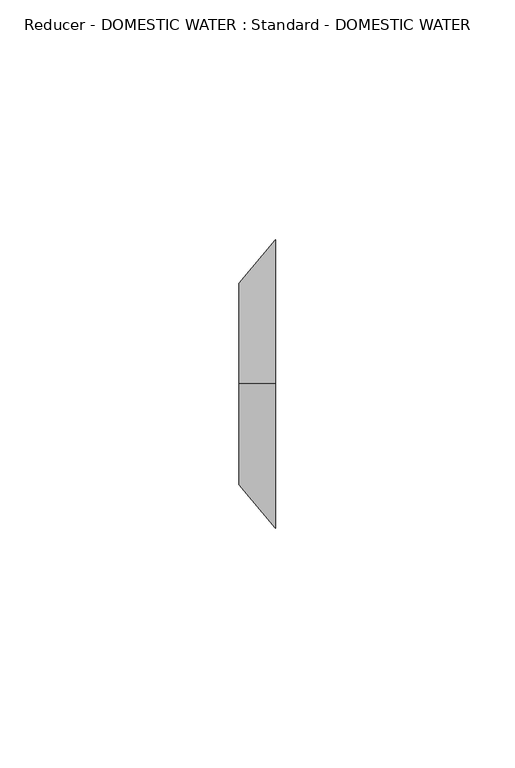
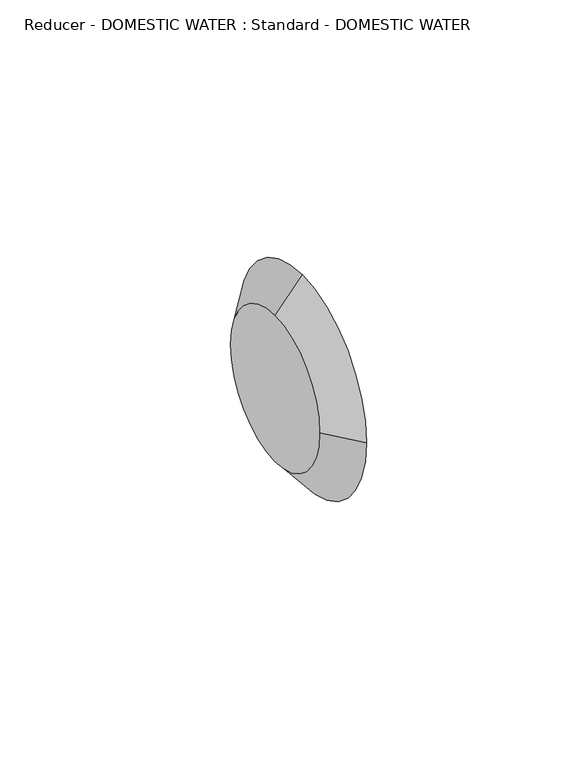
"""IFC4 building model written with IfcOpenShell, lengths in millimetres: pipe fitting geometry, Reducer - DOMESTIC WATER : Standard - DOMESTIC WATER."""

from ifc_helpers import new_model, si_unit, frame, origin, place, context, project, spatial, polyline, circle_curve, source, transform, mapped, element, save
from ifc_brep_helpers import plane_surface, revolved_surface, advanced_brep


def reducer_domestic_water_standard_domestic_water_1e759f6c(model_context):
    return source(origin(), model_context, "Body", "AdvancedBrep", [
        advanced_brep(
        [(7.540625, 0.0, 30.1625), (7.540625, -30.1625, 0.0), (7.540625, 0.0, -30.1625), (7.540625, 30.1625, 0.0), (0.0, 0.0, 21.082), (0.0, 21.082, 0.0), (0.0, 0.0, -21.082), (0.0, -21.082, 0.0)],
        [
            (0, 1, circle_curve(frame((7.540625, 0.0, 0.0), z_axis=(1.0, 0.0, 0.0), x_axis=(0.0, 0.0, 1.0)), 30.1625)),
            (1, 2, circle_curve(frame((7.540625, 0.0, 0.0), z_axis=(1.0, 0.0, 0.0), x_axis=(0.0, -1.0, 0.0)), 30.1625)),
            (2, 3, circle_curve(frame((7.540625, 0.0, 0.0), z_axis=(1.0, 0.0, 0.0), x_axis=(0.0, 0.0, -1.0)), 30.1625)),
            (3, 0, circle_curve(frame((7.540625, 0.0, 0.0), z_axis=(1.0, 0.0, 0.0), x_axis=(0.0, 1.0, 0.0)), 30.1625)),
            (4, 5, circle_curve(frame((0.0, 0.0, 0.0), z_axis=(-1.0, 0.0, 0.0), x_axis=(0.0, 1.0, 0.0)), 21.082)),
            (5, 6, circle_curve(frame((0.0, 0.0, 0.0), z_axis=(-1.0, 0.0, 0.0), x_axis=(0.0, 0.0, -1.0)), 21.082)),
            (6, 7, circle_curve(frame((0.0, 0.0, 0.0), z_axis=(-1.0, 0.0, 0.0), x_axis=(0.0, -1.0, 0.0)), 21.082)),
            (7, 4, circle_curve(frame((0.0, 0.0, 0.0), z_axis=(-1.0, 0.0, 0.0), x_axis=(0.0, 0.0, 1.0)), 21.082)),
            (7, 1),
            (0, 4),
            (6, 2),
            (5, 3),
        ],
        [
            plane_surface(frame((7.540625, 0.0, 0.0), z_axis=(1.0, 0.0, 0.0), x_axis=(0.0, -1.0, 0.0))),
            plane_surface(frame((0.0, 0.0, 0.0), z_axis=(-1.0, 0.0, 0.0), x_axis=(0.0, -1.0, 0.0))),
            revolved_surface(polyline([(0.0, -21.082000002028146, 0.0), (7.540625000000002, -30.1625, 0.0)]), (-17.5069056, 0.0, 0.0), (1.0, 0.0, 0.0)),
            revolved_surface(polyline([(0.0, 0.0, -21.082000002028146), (7.540625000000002, 0.0, -30.1625)]), (-17.5069056, 0.0, 0.0), (1.0, 0.0, 0.0)),
            revolved_surface(polyline([(0.0, 21.082000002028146, 0.0), (7.540625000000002, 30.1625, 0.0)]), (-17.5069056, 0.0, 0.0), (1.0, 0.0, 0.0)),
            revolved_surface(polyline([(0.0, 0.0, 21.082000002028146), (7.540625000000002, 0.0, 30.1625)]), (-17.5069056, 0.0, 0.0), (1.0, 0.0, 0.0)),
        ],
        [
            (0, [[1, 2, 3, 4]]),
            (1, [[5, 6, 7, 8]]),
            (2, [[-8, 9, -1, 10]]),
            (3, [[-7, 11, -2, -9]]),
            (4, [[-6, 12, -3, -11]]),
            (5, [[-5, -10, -4, -12]]),
        ],
    ),
        advanced_brep(
        [(7.540625, 0.0, 30.1625), (7.540625, -30.1625, 0.0), (7.540625, 0.0, -30.1625), (7.540625, 30.1625, 0.0), (0.0, 0.0, 21.082), (0.0, 21.082, 0.0), (0.0, 0.0, -21.082), (0.0, -21.082, 0.0)],
        [
            (0, 1, circle_curve(frame((7.540625, 0.0, 0.0), z_axis=(1.0, 0.0, -1.0560191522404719e-12), x_axis=(1.0560735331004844e-12, 0.0, 1.0)), 30.1625)),
            (1, 2, circle_curve(frame((7.540625, 0.0, 0.0), z_axis=(1.0, 0.0, -1.0111427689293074e-12), x_axis=(0.0, -1.0, 0.0)), 30.1625)),
            (2, 3, circle_curve(frame((7.540625, 0.0, 0.0), z_axis=(1.0, 0.0, -1.6563572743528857e-12), x_axis=(-1.6564104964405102e-12, 0.0, -1.0)), 30.1625)),
            (3, 0, circle_curve(frame((7.540625, 0.0, 0.0), z_axis=(1.0, 0.0, 0.0), x_axis=(0.0, 1.0, 0.0)), 30.1625)),
            (4, 5, circle_curve(frame((0.0, 0.0, 0.0), z_axis=(-1.0, 0.0, 0.0), x_axis=(0.0, 1.0, 0.0)), 21.082)),
            (5, 6, circle_curve(frame((0.0, 0.0, 0.0), z_axis=(-1.0, 0.0, 1.6563572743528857e-12), x_axis=(-1.6564104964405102e-12, 0.0, -1.0)), 21.082)),
            (6, 7, circle_curve(frame((0.0, 0.0, 0.0), z_axis=(-1.0, 0.0, 1.0111427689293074e-12), x_axis=(0.0, -1.0, 0.0)), 21.082)),
            (7, 4, circle_curve(frame((0.0, 0.0, 0.0), z_axis=(-1.0, 0.0, 1.0560191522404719e-12), x_axis=(1.0560735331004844e-12, 0.0, 1.0)), 21.082)),
            (7, 1),
            (0, 4),
            (6, 2),
            (5, 3),
        ],
        [
            plane_surface(frame((7.540625, 0.0, 0.0), z_axis=(1.0, 0.0, 0.0), x_axis=(0.0, -1.0, 0.0))),
            plane_surface(frame((0.0, 0.0, 0.0), z_axis=(-1.0, 0.0, 0.0), x_axis=(0.0, -1.0, 0.0))),
            revolved_surface(polyline([(-2.226130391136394e-11, -21.082000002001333, 0.0), (7.540625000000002, -30.1625, 0.0)]), (-17.5069056, 0.0, 0.0), (1.0, 0.0, -1.0560191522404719e-12)),
            revolved_surface(polyline([(-2.1316282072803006e-11, 0.0, -21.082000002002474), (7.540625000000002, 0.0, -30.1625)]), (-17.5069056, 0.0, 0.0), (1.0, 0.0, -1.0111427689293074e-12)),
            revolved_surface(polyline([(0.0, 21.082000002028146, 0.0), (7.540625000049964, 30.162500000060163, 0.0)]), (-17.5069056, 0.0, 0.0), (1.0, 0.0, -1.6563572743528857e-12)),
            revolved_surface(polyline([(0.0, 0.0, 21.082000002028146), (7.540625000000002, 0.0, 30.1625)]), (-17.5069056, 0.0, 0.0), (1.0, 0.0, 0.0)),
        ],
        [
            (0, [[1, 2, 3, 4]]),
            (1, [[5, 6, 7, 8]]),
            (2, [[-8, 9, -1, 10]]),
            (3, [[-7, 11, -2, -9]]),
            (4, [[-6, 12, -3, -11]]),
            (5, [[-5, -10, -4, -12]]),
        ],
    ),
    ])


if __name__ == "__main__":
    model = new_model("IFC4")
    model_context = context("Model", 3, world=origin())
    ifc_project = project(units=[si_unit("LENGTHUNIT", "METRE", prefix="MILLI")], contexts=[model_context])
    site = spatial("IfcSite", under=ifc_project)
    building = spatial("IfcBuilding", under=site)
    placement = place(None, origin())
    reducer_domestic_water_standard_domestic_water_shape = reducer_domestic_water_standard_domestic_water_1e759f6c(model_context)
    element("IfcPipeFitting", 1, ObjectType="Reducer - DOMESTIC WATER : Standard - DOMESTIC WATER", at=placement, inside=building, context=model_context, shape_type="MappedRepresentation", body=[
        mapped(reducer_domestic_water_standard_domestic_water_shape, transform((0.0, 0.0, 0.0), x_axis=(1.0, 0.0, 0.0), y_axis=(0.0, 1.0, 0.0), z_axis=(0.0, 0.0, 1.0))),
    ])
    save(model, "model.ifc")
